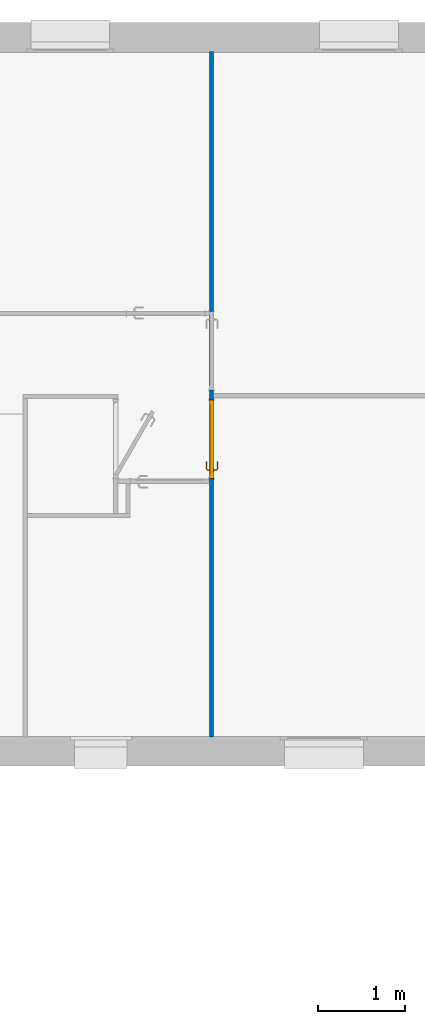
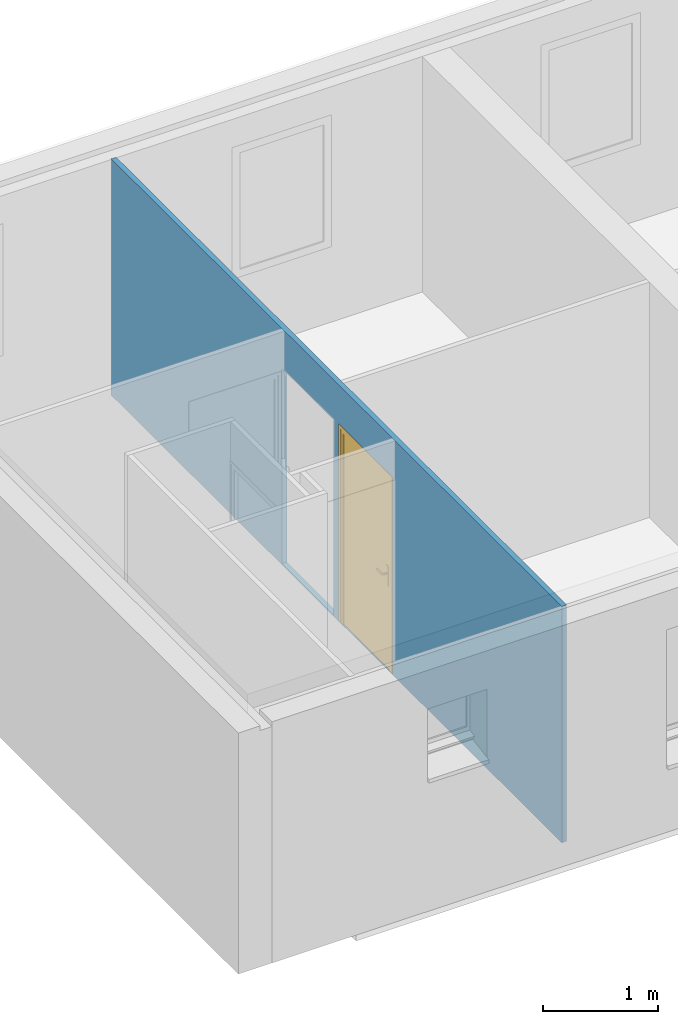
# One storey, part 5 of 13: 1 door, 1 wall, 3 openings.
"""IFC2X3 building model written with IfcOpenShell, lengths in metres."""

import ifcopenshell
import ifcopenshell.guid

model = None  # the IFC model being written
_history = None  # IfcOwnerHistory: only IFC2X3 demands one
_inside = {}  # id of a spatial element -> (the spatial element, [elements in it])
_under = {}  # id of a project, library or spatial element -> (it, [spatial elements below it])
_declared = {}  # id of a project -> (the project, [libraries it declares])
_typed = {}  # id of a type object -> (the type object, [elements of that type])
_made_of = {}  # id of a material, layer set ... -> (it, [elements and type objects made of it])


def new_model(schema):
    """Start an empty IFC model of exactly this schema.

    Asked for "IFC4X3", IfcOpenShell would pick the latest addendum, in which some entities
    have other attributes; the version numbers below select the first issue.
    IFC2X3 requires an IfcOwnerHistory on every rooted entity: one is made here for all.
    """
    global model, _history
    if schema == "IFC4X3":
        model = ifcopenshell.file(schema_version=(4, 3, 0, 0))
    else:
        model = ifcopenshell.file(schema=schema)
    _inside.clear()
    _under.clear()
    _declared.clear()
    _typed.clear()
    _made_of.clear()
    _history = None
    if model.schema == "IFC2X3":
        org = make("IfcOrganization", Name="unknown")
        user = make(
            "IfcPersonAndOrganization",
            ThePerson=make("IfcPerson", FamilyName="unknown"),
            TheOrganization=org,
        )
        app = make(
            "IfcApplication",
            ApplicationDeveloper=org,
            Version="unknown",
            ApplicationFullName="unknown",
            ApplicationIdentifier="unknown",
        )
        _history = make(
            "IfcOwnerHistory",
            OwningUser=user,
            OwningApplication=app,
            ChangeAction="ADDED",
            CreationDate=0,
        )
    return model


def make(cls, **values):
    """One entity of the class cls with the attributes given. An attribute that is None is left unset."""
    return model.create_entity(
        cls, **{name: value for name, value in values.items() if value is not None}
    )


def entity(cls, *values):
    """Any entity or typed value of the class cls, its attributes in the order of the schema. None: left unset."""
    e = model.create_entity(cls)
    for i, value in enumerate(values):
        if value is not None:
            e[i] = value
    return e


def rooted(cls, **values):
    """An entity with a GlobalId (a new one), such as an element, a storey or a relation."""
    return make(cls, GlobalId=ifcopenshell.guid.new(), OwnerHistory=_history, **values)


def si_unit(unit_type, name, prefix=None):
    """IfcSIUnit, for example si_unit("LENGTHUNIT", "METRE", prefix="MILLI")."""
    return make("IfcSIUnit", UnitType=unit_type, Prefix=prefix, Name=name)


def converted_unit(unit_type, name, factor, base, dimensions=None, offset=None):
    """IfcConversionBasedUnit, such as the inch: factor (a typed value) times the base unit."""
    return make(
        "IfcConversionBasedUnit"
        if offset is None
        else "IfcConversionBasedUnitWithOffset",
        ConversionOffset=offset,
        Dimensions=None
        if dimensions is None
        else entity("IfcDimensionalExponents", *dimensions),
        UnitType=unit_type,
        Name=name,
        ConversionFactor=make(
            "IfcMeasureWithUnit", ValueComponent=factor, UnitComponent=base
        ),
    )


def derived_unit(unit_type, elements):
    """IfcDerivedUnit: a product of units, each with its exponent."""
    return make(
        "IfcDerivedUnit",
        Elements=[
            make("IfcDerivedUnitElement", Unit=unit, Exponent=power)
            for unit, power in elements
        ],
        UnitType=unit_type,
    )


def assignment(units):
    """IfcUnitAssignment: the units of a project."""
    return None if units is None else make("IfcUnitAssignment", Units=units)


def point(xyz):
    """IfcCartesianPoint."""
    return None if xyz is None else make("IfcCartesianPoint", Coordinates=xyz)


def direction(xyz):
    """IfcDirection."""
    return None if xyz is None else make("IfcDirection", DirectionRatios=xyz)


def frame(location, z_axis=None, x_axis=None):
    """IfcAxis2Placement3D, a coordinate frame: its origin and axes. An axis left out is left unset."""
    return make(
        "IfcAxis2Placement3D",
        Location=point(location),
        Axis=direction(z_axis),
        RefDirection=direction(x_axis),
    )


def frame_2d(location, x_axis=None):
    """IfcAxis2Placement2D, a coordinate frame in the plane: its origin and x axis."""
    return make(
        "IfcAxis2Placement2D", Location=point(location), RefDirection=direction(x_axis)
    )


def origin():
    """The frame at (0, 0, 0) with its axes left unset."""
    return frame((0.0, 0.0, 0.0))


def place(relative_to, where):
    """IfcLocalPlacement: puts the frame where relative to a parent placement (None: the world)."""
    return make(
        "IfcLocalPlacement", PlacementRelTo=relative_to, RelativePlacement=where
    )


def context(
    kind, dimensions, precision=None, world=None, true_north=None, identifier=None
):
    """IfcGeometricRepresentationContext, for example the 3D "Model" context."""
    return make(
        "IfcGeometricRepresentationContext",
        ContextIdentifier=identifier,
        ContextType=kind,
        CoordinateSpaceDimension=dimensions,
        Precision=precision,
        WorldCoordinateSystem=world,
        TrueNorth=true_north,
    )


def subcontext(parent, identifier, kind, view, scale=None):
    """IfcGeometricRepresentationSubContext, for example "Body" below "Model"."""
    return make(
        "IfcGeometricRepresentationSubContext",
        ContextIdentifier=identifier,
        ContextType=kind,
        ParentContext=parent,
        TargetScale=scale,
        TargetView=view,
    )


def project(units=None, contexts=None):
    """IfcProject with its units and contexts."""
    return rooted(
        "IfcProject",
        Name="project",
        RepresentationContexts=contexts,
        UnitsInContext=assignment(units),
    )


def spatial(cls, under=None, at=None, **own):
    """A site, building, storey or space (cls), placed at a placement, below another one or the project."""
    s = rooted(cls, ObjectPlacement=at, **own)
    if under is not None:
        _under.setdefault(under.id(), (under, []))[1].append(s)
    return s


def profile(cls, at=None, kind="AREA", **sizes):
    """A parametric profile (cls). Its sizes go by their IFC names, for example OverallWidth=200.0."""
    return make(cls, ProfileType=kind, Position=at, **sizes)


def rectangle(**sizes):
    """IfcRectangleProfileDef."""
    return profile("IfcRectangleProfileDef", **sizes)


def extrude(swept, where, along, depth):
    """IfcExtrudedAreaSolid: the profile swept, set in the frame where, extruded along a direction by depth."""
    return make(
        "IfcExtrudedAreaSolid",
        SweptArea=swept,
        Position=where,
        ExtrudedDirection=direction(along),
        Depth=depth,
    )


def faces_of(points, faces, orient=None, outer=None):
    """IfcFace entities. A face is a list of loops; a loop is a list of indices into points, from 0.

    orient and outer hold one flag for each loop. By default every Orientation is true, the
    first loop of a face is its IfcFaceOuterBound and the others are IfcFaceBound.
    """
    made = []
    for i, loops in enumerate(faces):
        bounds = []
        for j, loop in enumerate(loops):
            is_outer = j == 0 if outer is None else outer[i][j]
            bounds.append(
                make(
                    "IfcFaceOuterBound" if is_outer else "IfcFaceBound",
                    Bound=make("IfcPolyLoop", Polygon=[points[k] for k in loop]),
                    Orientation=True if orient is None else orient[i][j],
                )
            )
        made.append(make("IfcFace", Bounds=bounds))
    return made


def faceted_brep(points, faces, orient=None, outer=None, voids=None):
    """IfcFacetedBrep: a solid bounded by flat faces; with voids (closed shells), ...WithVoids."""
    shared = [point(p) for p in points]
    hull = make("IfcClosedShell", CfsFaces=faces_of(shared, faces, orient, outer))
    if voids is None:
        return make("IfcFacetedBrep", Outer=hull)
    return make(
        "IfcFacetedBrepWithVoids",
        Outer=hull,
        Voids=[
            make(cls, CfsFaces=faces_of(shared, fs, o, b)) for cls, fs, o, b in voids
        ],
    )


def shape(context_of_items, identifier, shape_type, items):
    """IfcShapeRepresentation: the items that make up one representation, for example the "Body"."""
    return make(
        "IfcShapeRepresentation",
        ContextOfItems=context_of_items,
        RepresentationIdentifier=identifier,
        RepresentationType=shape_type,
        Items=items,
    )


def source(mapping_origin, context_of_items, identifier, shape_type, items):
    """IfcRepresentationMap: a shape defined once, which mapped items show again and again."""
    return make(
        "IfcRepresentationMap",
        MappingOrigin=mapping_origin,
        MappedRepresentation=shape(context_of_items, identifier, shape_type, items),
    )


def transform(
    local_origin,
    x_axis=None,
    y_axis=None,
    z_axis=None,
    scale=None,
    scale2=None,
    scale3=None,
    uniform=True,
):
    """IfcCartesianTransformationOperator3D, or its non-uniform kind. x_axis, y_axis, z_axis: its Axis1, 2, 3."""
    if uniform:
        return make(
            "IfcCartesianTransformationOperator3D",
            Axis1=direction(x_axis),
            Axis2=direction(y_axis),
            LocalOrigin=point(local_origin),
            Scale=scale,
            Axis3=direction(z_axis),
        )
    return make(
        "IfcCartesianTransformationOperator3DnonUniform",
        Axis1=direction(x_axis),
        Axis2=direction(y_axis),
        LocalOrigin=point(local_origin),
        Scale=scale,
        Axis3=direction(z_axis),
        Scale2=scale2,
        Scale3=scale3,
    )


def mapped(mapping_source, mapping_target):
    """IfcMappedItem: shows the shape of a source again, moved by a transform."""
    return make(
        "IfcMappedItem", MappingSource=mapping_source, MappingTarget=mapping_target
    )


def material(Name=None, Category=None):
    """IfcMaterial."""
    return make("IfcMaterial", Name=Name, Category=Category)


def material_list(materials):
    """IfcMaterialList."""
    return make("IfcMaterialList", Materials=materials)


def layer(
    of_material, thickness, ventilated=None, Name=None, Category=None, Priority=None
):
    """IfcMaterialLayer: one layer of a wall or slab, of a material (None: an air gap)."""
    return make(
        "IfcMaterialLayer",
        Material=of_material,
        LayerThickness=thickness,
        IsVentilated=ventilated,
        Name=Name,
        Category=Category,
        Priority=Priority,
    )


def layer_set(layers, Name=None):
    """IfcMaterialLayerSet."""
    return make("IfcMaterialLayerSet", MaterialLayers=layers, LayerSetName=Name)


def layer_usage(for_layer_set, set_direction, sense, offset, extent=None):
    """IfcMaterialLayerSetUsage: how a layer set lies in its element."""
    return make(
        "IfcMaterialLayerSetUsage",
        ForLayerSet=for_layer_set,
        LayerSetDirection=set_direction,
        DirectionSense=sense,
        OffsetFromReferenceLine=offset,
        ReferenceExtent=extent,
    )


def made_of(thing, what):
    """Note that an element or type object is made of a material, layer set ...; save() writes the relation."""
    if what is not None:
        _made_of.setdefault(what.id(), (what, []))[1].append(thing)
    return thing


def type_object(cls, material=None, **own):
    """A type object (cls), such as IfcWallType, which elements share."""
    return made_of(rooted(cls, **own), material)


def type_shapes(of_type, sources):
    """Give a type object the sources (RepresentationMaps) that its elements show as mapped items."""
    of_type.RepresentationMaps = sources


def element(
    cls,
    number,
    at=None,
    inside=None,
    cuts=None,
    type_object=None,
    material=None,
    context=None,
    identifier="Body",
    shape_type=None,
    held_by="IfcProductDefinitionShape",
    body=None,
    shapes=None,
    **own,
):
    """One element of the class cls, such as IfcWall. Its Tag is "e" and its number.

    at: its placement. inside: the storey or other place that contains it. cuts: it is an
    opening in that element (IfcRelVoidsElement). A single representation is given by context,
    identifier, shape_type and body (its items); several are given by shapes. held_by: the class
    of the entity that holds the representations. save() writes the other relations.
    """
    e = rooted(cls, Tag="e%d" % number, ObjectPlacement=at, **own)
    if body is not None:
        shapes = [shape(context, identifier, shape_type, body)]
    if shapes is not None:
        e.Representation = make(held_by, Representations=shapes)
    if inside is not None:
        _inside.setdefault(inside.id(), (inside, []))[1].append(e)
    if cuts is not None:
        rooted(
            "IfcRelVoidsElement", RelatingBuildingElement=cuts, RelatedOpeningElement=e
        )
    if type_object is not None:
        _typed.setdefault(type_object.id(), (type_object, []))[1].append(e)
    return made_of(e, material)


def fill(opening, filler):
    """IfcRelFillsElement: the door or window that sits in an opening."""
    return rooted(
        "IfcRelFillsElement",
        RelatingOpeningElement=opening,
        RelatedBuildingElement=filler,
    )


def aggregate(whole, parts):
    """IfcRelAggregates: a whole, such as a stair, and the parts it consists of."""
    return rooted("IfcRelAggregates", RelatingObject=whole, RelatedObjects=parts)


def save(model, path):
    """Write the relations noted so far, then the file.

    IfcRelAggregates (storeys below a building ...), IfcRelContainedInSpatialStructure (elements
    in a storey), IfcRelDefinesByType, IfcRelAssociatesMaterial and IfcRelDeclares: one each for
    every whole, place, type object, material and project.
    """
    for whole, parts in _under.values():
        aggregate(whole, parts)
    for where, things in _inside.values():
        rooted(
            "IfcRelContainedInSpatialStructure",
            RelatedElements=things,
            RelatingStructure=where,
        )
    for kind, things in _typed.values():
        rooted("IfcRelDefinesByType", RelatedObjects=things, RelatingType=kind)
    for what, things in _made_of.values():
        rooted("IfcRelAssociatesMaterial", RelatedObjects=things, RelatingMaterial=what)
    for by, libraries in _declared.values():
        rooted("IfcRelDeclares", RelatingContext=by, RelatedDefinitions=libraries)
    model.write(path)


model = new_model("IFC2X3")

# Units and contexts
model_context = context("Model", 3, precision=1e-05, world=origin(), true_north=direction((6.12303176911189e-17, 1.0)))
context_of_model = context(None, 3, precision=1e-05, world=origin(), true_north=direction((6.12303176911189e-17, 1.0)))
body_context = subcontext(model_context, "Body", "Model", "MODEL_VIEW")
ifc_project = project(units=[si_unit("LENGTHUNIT", "METRE"), si_unit("AREAUNIT", "SQUARE_METRE"), si_unit("VOLUMEUNIT", "CUBIC_METRE"), converted_unit("PLANEANGLEUNIT", "DEGREE", entity("IfcRatioMeasure", 0.0174532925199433), si_unit("PLANEANGLEUNIT", "RADIAN"), dimensions=[0, 0, 0, 0, 0, 0, 0]), si_unit("MASSUNIT", "GRAM", prefix="KILO"), si_unit("TIMEUNIT", "SECOND"), si_unit("FREQUENCYUNIT", "HERTZ"), si_unit("THERMODYNAMICTEMPERATUREUNIT", "DEGREE_CELSIUS"), derived_unit("THERMALTRANSMITTANCEUNIT", [(si_unit("MASSUNIT", "GRAM", prefix="KILO"), 1), (si_unit("THERMODYNAMICTEMPERATUREUNIT", "KELVIN"), -1), (si_unit("TIMEUNIT", "SECOND"), -3)]), derived_unit("VOLUMETRICFLOWRATEUNIT", [(si_unit("LENGTHUNIT", "METRE"), 3), (si_unit("TIMEUNIT", "SECOND"), -1)]), si_unit("ELECTRICCURRENTUNIT", "AMPERE"), si_unit("ELECTRICVOLTAGEUNIT", "VOLT"), si_unit("POWERUNIT", "WATT"), si_unit("FORCEUNIT", "NEWTON", prefix="KILO"), si_unit("ILLUMINANCEUNIT", "LUX"), si_unit("LUMINOUSFLUXUNIT", "LUMEN"), si_unit("LUMINOUSINTENSITYUNIT", "CANDELA"), derived_unit("USERDEFINED", [(si_unit("MASSUNIT", "GRAM", prefix="KILO"), -1), (si_unit("LENGTHUNIT", "METRE"), -2), (si_unit("TIMEUNIT", "SECOND"), 3), (si_unit("LUMINOUSFLUXUNIT", "LUMEN"), 1)]), derived_unit("LINEARVELOCITYUNIT", [(si_unit("LENGTHUNIT", "METRE"), 1), (si_unit("TIMEUNIT", "SECOND"), -1)]), si_unit("PRESSUREUNIT", "PASCAL"), derived_unit("USERDEFINED", [(si_unit("LENGTHUNIT", "METRE"), -2), (si_unit("MASSUNIT", "GRAM", prefix="KILO"), 1), (si_unit("TIMEUNIT", "SECOND"), -2)])], contexts=[model_context, context_of_model])

# Site, building, storey
site_placement = place(None, origin())
site = spatial("IfcSite", under=ifc_project, at=site_placement, Name="Surface", CompositionType="ELEMENT")
building_placement = place(site_placement, origin())
building = spatial("IfcBuilding", under=site, at=building_placement, CompositionType="ELEMENT")
storey_placement = place(building_placement, frame((0.0, 0.0, 2.74)))
storey = spatial("IfcBuildingStorey", under=building, at=storey_placement, Name="Plan étage", CompositionType="ELEMENT", Elevation=2.74)

# Wall, openings, door
ifc_material_1 = material(Name="Maçonnerie - Isolant(1)")
ifc_layer = layer(ifc_material_1, 0.05)
ifc_layer_set = layer_set([ifc_layer], Name="Mur de base:Int. plâtre 50 mm")
ifc_layer_usage = layer_usage(ifc_layer_set, "AXIS2", "NEGATIVE", 0.025)
wall_type = type_object("IfcWallType", Name="Mur de base:Int. plâtre 50 mm", PredefinedType="STANDARD", material=ifc_layer_set)
wall_placement = place(storey_placement, frame((-8.17108881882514, -2.48574421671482, -0.00999999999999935), z_axis=(0.0, 0.0, 1.0), x_axis=(0.0, 1.0, 0.0)))
wall = element("IfcWallStandardCase", 1, at=wall_placement, inside=storey, type_object=wall_type, material=ifc_layer_usage, Name="Mur de base:Int. plâtre 50 mm", ObjectType="Mur de base:Int. plâtre 50 mm", context=body_context, shape_type="SweptSolid", body=[
    extrude(rectangle(XDim=7.84000000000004, YDim=0.0499999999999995, at=frame_2d((3.92000000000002, 0.0), x_axis=(-1.0, 0.0))), origin(), (0.0, 0.0, 1.0), 2.51),
])
opening_1_placement = place(wall_placement, origin())
element("IfcOpeningElement", 2, at=opening_1_placement, cuts=wall, Name="Mur de base:Int. plâtre 50 mm", ObjectType="Opening", context=body_context, shape_type="SweptSolid", body=[
    extrude(rectangle(XDim=2.075, YDim=0.05, at=frame_2d((0.0, 3.33066907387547e-16), x_axis=(0.0, 1.0))), frame((2.92500000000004, 0.0274999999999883, 1.0475), z_axis=(0.0, 1.0, 0.0), x_axis=(1.0, 0.0, 0.0)), (0.0, 0.0, 1.0), 0.9),
])
opening_2_placement = place(wall_placement, frame((3.85750000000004, 0.025, 0.00999999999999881)))
opening_2 = element("IfcOpeningElement", 3, at=opening_2_placement, cuts=wall, Name="Int. Simple:PP (0.83m x 2.04m):1", ObjectType="Opening", context=body_context, shape_type="SweptSolid", body=[
    extrude(rectangle(XDim=2.075, YDim=0.9, at=frame_2d((1.0375, 0.45), x_axis=(1.0, 0.0))), frame((0.0, 0.0, 0.0), z_axis=(0.0, -1.0, 0.0), x_axis=(0.0, 0.0, 1.0)), (0.0, 0.0, 1.0), 0.05),
])
opening_3_placement = place(wall_placement, frame((4.87000000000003, 0.025, 0.00999999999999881)))
element("IfcOpeningElement", 4, at=opening_3_placement, cuts=wall, Name="Int. Simple:PP (0.83m x 2.04m):1", ObjectType="Opening", context=body_context, shape_type="SweptSolid", body=[
    extrude(rectangle(XDim=2.075, YDim=0.9, at=frame_2d((1.0375, 0.45), x_axis=(1.0, 0.0))), frame((0.0, 0.0, 0.0), z_axis=(0.0, -1.0, 0.0), x_axis=(0.0, 0.0, 1.0)), (0.0, 0.0, 1.0), 0.05),
])
ifc_material_2 = material(Name="Finition Peinture - Blanc satiné")
ifc_material_3 = material(Name="Bois - Panneau de porte")
ifc_material_4 = material(Name="Bois - Cadre de porte")
ifc_material_list_1 = material_list([ifc_material_2, ifc_material_3, ifc_material_4])
ifc_material_list_2 = material_list([ifc_material_2, ifc_material_3, ifc_material_4])
door_style = type_object("IfcDoorStyle", Name="PP (0.83m x 2.04m)", ConstructionType="NOTDEFINED", OperationType="SINGLE_SWING_LEFT", ParameterTakesPrecedence=False, Sizeable=False, material=ifc_material_list_2)
shared_shape = source(origin(), body_context, "Body", "Brep", [
    faceted_brep([(0.105352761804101, -0.00500000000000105, 0.866003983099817), (0.115, -0.00500000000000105, 0.870000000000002), (0.114999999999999, -0.00500000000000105, 1.08), (0.1053527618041, -0.00500000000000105, 1.08399601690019), (0.0949999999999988, -0.00500000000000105, 1.08535898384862), (0.0846472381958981, -0.00500000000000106, 1.08399601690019), (0.0749999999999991, -0.00500000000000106, 1.08), (0.0750000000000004, -0.00500000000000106, 0.870000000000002), (0.0846472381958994, -0.00500000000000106, 0.866003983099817), (0.0950000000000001, -0.00500000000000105, 0.86464101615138), (0.1053527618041, 0.0, 1.08399601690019), (0.114999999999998, 0.0, 1.08), (0.115, 0.0, 0.870000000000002), (0.105352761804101, 0.0, 0.866003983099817), (0.0950000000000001, 0.0, 0.86464101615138), (0.0846472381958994, 0.0, 0.866003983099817), (0.0749999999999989, 0.0, 0.870000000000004), (0.0749999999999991, 0.0, 1.08), (0.0846472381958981, 0.0, 1.08399601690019), (0.0949999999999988, 0.0, 1.08535898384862)], [[[0, 1, 2, 3, 4, 5, 6, 7, 8, 9]], [[10, 11, 12, 13, 14, 15, 16, 17, 18, 19]], [[16, 15, 8, 7]], [[8, 15, 14, 9]], [[14, 13, 0, 9]], [[13, 12, 1, 0]], [[2, 1, 12, 11]], [[11, 10, 3, 2]], [[3, 10, 19, 4]], [[19, 18, 5, 4]], [[18, 17, 6, 5]], [[7, 6, 17, 16]]]),
    faceted_brep([(0.105352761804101, 0.0399999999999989, 0.866003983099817), (0.115, 0.0399999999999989, 0.870000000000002), (0.114999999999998, 0.0399999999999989, 1.08), (0.105352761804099, 0.0399999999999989, 1.08399601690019), (0.0949999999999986, 0.0399999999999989, 1.08535898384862), (0.084647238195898, 0.0399999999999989, 1.08399601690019), (0.0749999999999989, 0.0399999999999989, 1.08), (0.0750000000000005, 0.0399999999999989, 0.870000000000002), (0.0846472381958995, 0.0399999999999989, 0.866003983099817), (0.0950000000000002, 0.0399999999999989, 0.86464101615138), (0.105352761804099, 0.0449999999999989, 1.08399601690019), (0.114999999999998, 0.0449999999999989, 1.08), (0.115, 0.0449999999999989, 0.870000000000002), (0.105352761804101, 0.0449999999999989, 0.866003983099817), (0.0950000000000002, 0.0449999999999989, 0.86464101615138), (0.0846472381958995, 0.0449999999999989, 0.866003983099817), (0.0749999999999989, 0.0449999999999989, 0.870000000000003), (0.0749999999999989, 0.0449999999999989, 1.08), (0.084647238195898, 0.0449999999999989, 1.08399601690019), (0.0949999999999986, 0.0449999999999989, 1.08535898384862)], [[[0, 1, 2, 3, 4, 5, 6, 7, 8, 9]], [[10, 11, 12, 13, 14, 15, 16, 17, 18, 19]], [[11, 10, 3, 2]], [[3, 10, 19, 4]], [[19, 18, 5, 4]], [[18, 17, 6, 5]], [[7, 6, 17, 16]], [[16, 15, 8, 7]], [[8, 15, 14, 9]], [[14, 13, 0, 9]], [[13, 12, 1, 0]], [[2, 1, 12, 11]]]),
    faceted_brep([(0.0929747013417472, -0.00500000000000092, 1.00778044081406), (0.0970252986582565, -0.0050000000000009, 1.00778044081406), (0.101000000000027, -0.00500000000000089, 1.00699999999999), (0.101000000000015, -0.00500000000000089, 0.993000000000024), (0.0970252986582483, -0.0050000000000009, 0.992219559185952), (0.0929747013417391, -0.00500000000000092, 0.99221955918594), (0.0889999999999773, -0.00500000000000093, 0.992999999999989), (0.0889999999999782, -0.00500000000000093, 1.007), (0.0889999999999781, -0.0326509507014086, 1.007), (0.092974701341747, -0.0310045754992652, 1.00778044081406), (0.10902358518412, -0.0470534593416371, 1.00778044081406), (0.110701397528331, -0.0430028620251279, 1.00778044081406), (0.0970252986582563, -0.0293267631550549, 1.00778044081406), (0.101000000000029, -0.0276803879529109, 1.007), (0.101000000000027, -0.0276803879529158, 0.993000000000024), (0.0970252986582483, -0.0293267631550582, 0.992219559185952), (0.110701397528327, -0.0430028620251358, 0.992219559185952), (0.109023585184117, -0.047053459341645, 0.99221955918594), (0.0929747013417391, -0.0310045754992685, 0.99221955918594), (0.0889999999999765, -0.0326509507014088, 0.992999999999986), (0.107377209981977, -0.0510281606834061, 1.007), (0.112347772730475, -0.0390281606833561, 1.007), (0.112347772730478, -0.0390281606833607, 0.993000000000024), (0.107377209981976, -0.0510281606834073, 0.992999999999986), (0.195018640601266, -0.0510281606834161, 0.992999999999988), (0.195018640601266, -0.0470534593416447, 0.99221955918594), (0.195018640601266, -0.0430028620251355, 0.992219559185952), (0.195018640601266, -0.039028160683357, 0.993000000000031), (0.195018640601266, -0.0390281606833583, 1.007), (0.195018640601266, -0.0430028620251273, 1.00778044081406), (0.195018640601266, -0.0470534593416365, 1.00778044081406), (0.195018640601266, -0.0510281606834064, 1.00699999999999), (0.147307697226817, -0.0510281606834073, 1.007), (0.152860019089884, -0.045028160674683, 1.0078786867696), (0.15368320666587, -0.039028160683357, 1.007), (0.153683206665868, -0.0390281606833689, 0.993000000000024), (0.152860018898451, -0.0450281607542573, 0.992121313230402), (0.147307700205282, -0.0510281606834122, 0.992999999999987)], [[[0, 1, 2, 3, 4, 5, 6, 7]], [[8, 9, 0, 7]], [[9, 10, 11, 12, 1, 0]], [[12, 13, 2, 1]], [[3, 2, 13, 14]], [[14, 15, 4, 3]], [[15, 16, 17, 18, 5, 4]], [[18, 19, 6, 5]], [[7, 6, 19, 8]], [[20, 10, 9, 8]], [[11, 21, 13, 12]], [[14, 13, 21, 22]], [[22, 16, 15, 14]], [[17, 23, 19, 18]], [[8, 19, 23, 20]], [[24, 25, 26, 27, 28, 29, 30, 31]], [[32, 30, 33]], [[31, 30, 32]], [[10, 20, 32]], [[33, 34, 11]], [[21, 11, 34]], [[34, 29, 28]], [[30, 29, 33]], [[29, 34, 33]], [[10, 32, 33]], [[10, 33, 11]], [[22, 21, 34, 28, 27, 35]], [[35, 26, 36]], [[37, 36, 25]], [[22, 35, 16]], [[35, 27, 26]], [[24, 37, 25]], [[23, 17, 37]], [[37, 17, 36]], [[17, 16, 36]], [[16, 35, 36]], [[25, 36, 26]], [[20, 23, 37, 24, 31, 32]]]),
    faceted_brep([(0.0929747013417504, 0.0449999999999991, 1.00778044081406), (0.0889999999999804, 0.044999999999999, 1.007), (0.0889999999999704, 0.044999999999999, 0.992999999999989), (0.0929747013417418, 0.0449999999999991, 0.99221955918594), (0.0970252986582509, 0.0449999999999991, 0.992219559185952), (0.10100000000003, 0.0449999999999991, 0.993000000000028), (0.101000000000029, 0.0449999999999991, 1.007), (0.0970252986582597, 0.0449999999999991, 1.00778044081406), (0.10100000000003, 0.067485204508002, 0.993000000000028), (0.10100000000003, 0.0674852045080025, 1.007), (0.0970252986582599, 0.0691315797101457, 1.00778044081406), (0.110838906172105, 0.0829451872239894, 1.00778044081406), (0.109161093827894, 0.0869957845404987, 1.00778044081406), (0.0929747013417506, 0.070809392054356, 1.00778044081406), (0.0889999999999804, 0.0724557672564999, 1.007), (0.0889999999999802, 0.072455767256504, 0.992999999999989), (0.0929747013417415, 0.0708093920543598, 0.99221955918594), (0.109161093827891, 0.0869957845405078, 0.99221955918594), (0.110838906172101, 0.0829451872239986, 0.992219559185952), (0.0970252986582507, 0.0691315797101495, 0.992219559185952), (0.112485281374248, 0.0789704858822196, 0.993000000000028), (0.112485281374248, 0.0789704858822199, 1.007), (0.107514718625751, 0.0909704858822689, 1.007), (0.107514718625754, 0.090970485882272, 0.992999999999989), (0.195045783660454, 0.0789704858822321, 0.993000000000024), (0.195045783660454, 0.0829451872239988, 0.992219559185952), (0.195045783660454, 0.086995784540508, 0.99221955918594), (0.195045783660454, 0.0909704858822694, 0.992999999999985), (0.195045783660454, 0.0909704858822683, 1.007), (0.195045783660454, 0.0869957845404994, 1.00778044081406), (0.195045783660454, 0.0829451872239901, 1.00778044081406), (0.195045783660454, 0.0789704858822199, 1.007), (0.153765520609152, 0.0789704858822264, 0.993000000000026), (0.153765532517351, 0.0789704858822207, 1.007), (0.152942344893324, 0.0849704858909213, 1.0078786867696), (0.147445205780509, 0.0909704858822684, 1.007), (0.147445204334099, 0.0909704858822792, 0.992999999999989), (0.152942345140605, 0.0849704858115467, 0.992121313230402)], [[[0, 1, 2, 3, 4, 5, 6, 7]], [[6, 5, 8, 9]], [[9, 10, 7, 6]], [[10, 11, 12, 13, 0, 7]], [[13, 14, 1, 0]], [[2, 1, 14, 15]], [[15, 16, 3, 2]], [[16, 17, 18, 19, 4, 3]], [[19, 8, 5, 4]], [[9, 8, 20, 21]], [[21, 11, 10, 9]], [[12, 22, 14, 13]], [[15, 14, 22, 23]], [[23, 17, 16, 15]], [[18, 20, 8, 19]], [[24, 25, 26, 27, 28, 29, 30, 31]], [[21, 20, 32, 24, 31, 33]], [[33, 30, 34]], [[35, 34, 29]], [[21, 33, 11]], [[33, 31, 30]], [[28, 35, 29]], [[22, 12, 35]], [[35, 12, 34]], [[12, 11, 34]], [[11, 33, 34]], [[29, 34, 30]], [[22, 35, 28, 27, 36, 23]], [[36, 26, 37]], [[27, 26, 36]], [[17, 23, 36]], [[37, 32, 18]], [[20, 18, 32]], [[32, 25, 24]], [[26, 25, 37]], [[25, 32, 37]], [[17, 36, 37]], [[17, 37, 18]]]),
    faceted_brep([(0.034999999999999, 0.04, 2.04), (0.865, 0.04, 2.04), (0.864999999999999, 0.04, 0.0), (0.034999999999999, 0.04, 0.0), (0.034999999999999, 0.0, 2.04), (0.034999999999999, 0.0, 0.0), (0.864999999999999, 0.0, 0.0), (0.865, 0.0, 2.04)], [[[0, 1, 2, 3]], [[4, 5, 6, 7]], [[1, 0, 4, 7]], [[2, 1, 7, 6]], [[3, 2, 6, 5]], [[0, 3, 5, 4]]]),
    faceted_brep([(0.0, 0.0, 0.0), (0.0, 0.050000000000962, 0.0), (0.0499999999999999, 0.050000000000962, 0.0), (0.0499999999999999, 0.040000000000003, 0.0), (0.0349999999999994, 0.040000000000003, 0.0), (0.0349999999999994, 0.0, 0.0), (0.0, 0.0, 2.07500000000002), (0.0, 0.050000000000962, 2.07500000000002), (0.900000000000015, 0.050000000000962, 2.07500000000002), (0.900000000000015, 0.050000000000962, 0.0), (0.85, 0.050000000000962, 0.0), (0.85, 0.050000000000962, 2.025), (0.0500000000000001, 0.050000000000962, 2.025), (0.05, 0.040000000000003, 2.025), (0.85, 0.040000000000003, 2.025), (0.85, 0.040000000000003, 0.0), (0.865, 0.040000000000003, 0.0), (0.865, 0.040000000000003, 2.04), (0.0349999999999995, 0.040000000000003, 2.04), (0.0349999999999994, 0.0, 2.04), (0.865, 0.0, 2.04), (0.865, 0.0, 0.0), (0.900000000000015, 0.0, 0.0), (0.900000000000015, 0.0, 2.07500000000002)], [[[0, 1, 2, 3, 4, 5]], [[1, 0, 6, 7]], [[2, 1, 7, 8, 9, 10, 11, 12]], [[3, 2, 12, 13]], [[4, 3, 13, 14, 15, 16, 17, 18]], [[5, 4, 18, 19]], [[0, 5, 19, 20, 21, 22, 23, 6]], [[8, 23, 22, 9]], [[22, 21, 16, 15, 10, 9]], [[14, 11, 10, 15]], [[20, 17, 16, 21]], [[7, 6, 23, 8]], [[13, 12, 11, 14]], [[19, 18, 17, 20]]]),
    faceted_brep([(0.0149999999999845, 0.050000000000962, 0.0), (-0.0150000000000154, 0.050000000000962, 0.0), (-0.0150000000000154, 0.055000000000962, 0.0), (0.0149999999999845, 0.055000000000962, 0.0), (0.0149999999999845, 0.050000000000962, 2.06000000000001), (0.884999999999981, 0.050000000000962, 2.06000000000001), (0.88499999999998, 0.050000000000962, 0.0), (0.91499999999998, 0.050000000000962, 0.0), (0.91499999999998, 0.050000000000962, 2.09000000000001), (-0.0150000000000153, 0.050000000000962, 2.09000000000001), (-0.0150000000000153, 0.055000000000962, 2.09000000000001), (0.91499999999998, 0.055000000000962, 2.09000000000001), (0.91499999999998, 0.055000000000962, 0.0), (0.88499999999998, 0.055000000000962, 0.0), (0.88499999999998, 0.055000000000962, 2.06000000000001), (0.0149999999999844, 0.055000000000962, 2.06000000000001)], [[[0, 1, 2, 3]], [[1, 0, 4, 5, 6, 7, 8, 9]], [[2, 1, 9, 10]], [[3, 2, 10, 11, 12, 13, 14, 15]], [[0, 3, 15, 4]], [[6, 13, 12, 7]], [[5, 14, 13, 6]], [[11, 8, 7, 12]], [[10, 9, 8, 11]], [[4, 15, 14, 5]]]),
    faceted_brep([(-0.0150000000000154, -0.005, 0.0), (0.0149999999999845, -0.005, 0.0), (0.0149999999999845, -0.005, 2.06000000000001), (0.884999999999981, -0.005, 2.06000000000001), (0.88499999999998, -0.005, 0.0), (0.91499999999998, -0.005, 0.0), (0.91499999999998, -0.005, 2.09000000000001), (-0.0150000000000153, -0.005, 2.09000000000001), (-0.0150000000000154, 0.0, 0.0), (-0.0150000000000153, 0.0, 2.09000000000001), (0.0149999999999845, 0.0, 0.0), (0.91499999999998, 0.0, 2.09000000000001), (0.91499999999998, 0.0, 0.0), (0.88499999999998, 0.0, 0.0), (0.88499999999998, 0.0, 2.06000000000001), (0.0149999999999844, 0.0, 2.06000000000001)], [[[0, 1, 2, 3, 4, 5, 6, 7]], [[8, 0, 7, 9]], [[10, 8, 9, 11, 12, 13, 14, 15]], [[1, 10, 15, 2]], [[3, 14, 13, 4]], [[11, 6, 5, 12]], [[9, 7, 6, 11]], [[2, 15, 14, 3]], [[4, 13, 12, 5]], [[1, 0, 8, 10]]]),
])
type_shapes(door_style, [shared_shape])
door_placement = place(opening_2_placement, frame((-0.9, -0.0500000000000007, 0.0)))
door = element("IfcDoor", 5, at=door_placement, inside=storey, type_object=door_style, material=ifc_material_list_1, Name="Int. Simple:PP (0.83m x 2.04m)", ObjectType="PP (0.83m x 2.04m)", OverallHeight=2.075, OverallWidth=0.9, context=body_context, shape_type="MappedRepresentation", body=[
    mapped(shared_shape, transform((0.0, 0.0, 0.0), scale=1.0)),
])
fill(opening_2, door)

save(model, "model.ifc")
